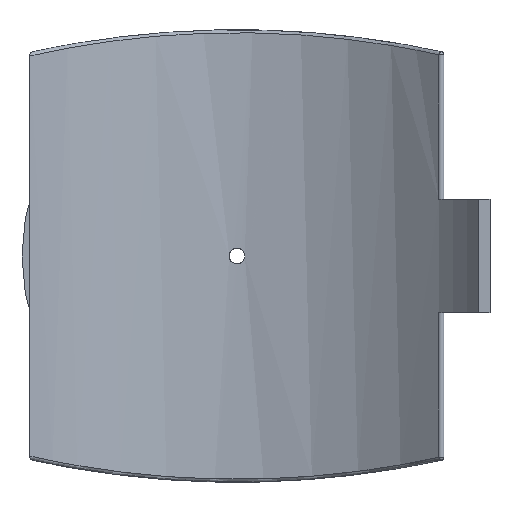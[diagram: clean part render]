
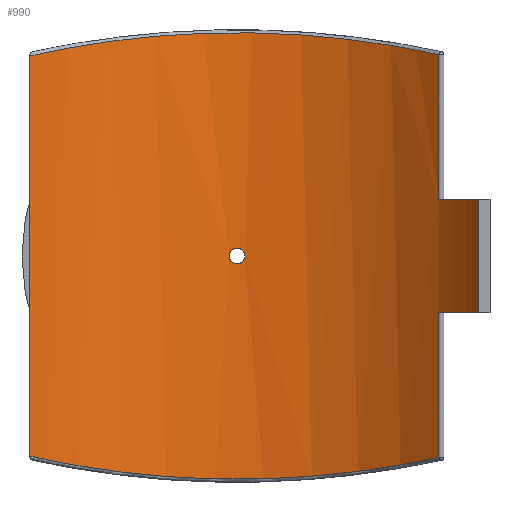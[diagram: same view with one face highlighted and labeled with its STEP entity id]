
A CAD part, front view. The second image highlights one B-rep face of the part: STEP entity #990.
In plain terms, the highlighted cylindrical face has radius 200 mm (diameter 400 mm), a partial arc.
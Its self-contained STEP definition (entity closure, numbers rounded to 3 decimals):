
#55=FACE_BOUND('',#331,.T.);
#101=B_SPLINE_CURVE_WITH_KNOTS('',3,(#2078,#2079,#2080,#2081,#2082,#2083,
#2084,#2085,#2086,#2087),.UNSPECIFIED.,.F.,.F.,(4,1,1,1,1,1,1,4),(-34.596,
-30.27,-25.944,-21.619,-17.293,
-12.967,-8.641,-4.316),.UNSPECIFIED.);
#102=B_SPLINE_CURVE_WITH_KNOTS('',3,(#2096,#2097,#2098,#2099,#2100,#2101,
#2102,#2103,#2104,#2105),.UNSPECIFIED.,.F.,.F.,(4,1,1,1,1,1,1,4),(-32.607,
-28.281,-23.956,-19.63,-15.304,
-10.978,-6.653,-2.327),.UNSPECIFIED.);
#103=B_SPLINE_CURVE_WITH_KNOTS('',3,(#2108,#2109,#2110,#2111,#2112,#2113,
#2114,#2115,#2116,#2117),.UNSPECIFIED.,.F.,.F.,(4,2,2,2,4),(0.,0.196,
0.392,0.588,0.784),.UNSPECIFIED.);
#104=B_SPLINE_CURVE_WITH_KNOTS('',3,(#2118,#2119,#2120,#2121,#2122,#2123,
#2124,#2125,#2126,#2127,#2128,#2129,#2130,#2131,#2132,#2133,#2134,#2135,
#2136,#2137,#2138,#2139,#2140,#2141,#2142,#2143),.UNSPECIFIED.,.F.,.F.,
(4,2,2,2,2,2,2,2,2,2,2,2,4),(0.784,0.979,1.175,
1.371,1.567,1.763,1.959,2.155,
2.351,2.547,2.742,2.938,3.134),
 .UNSPECIFIED.);
#125=LINE('',#1483,#172);
#136=LINE('',#1767,#183);
#143=LINE('',#2092,#190);
#144=LINE('',#2095,#191);
#172=VECTOR('',#1188,10.);
#183=VECTOR('',#1227,10.);
#190=VECTOR('',#1264,10.);
#191=VECTOR('',#1267,10.);
#228=CYLINDRICAL_SURFACE('',#1083,200.);
#268=FACE_OUTER_BOUND('',#330,.T.);
#330=EDGE_LOOP('',(#775,#776,#777,#778,#779,#780,#781,#782));
#331=EDGE_LOOP('',(#783,#784));
#413=CIRCLE('',#1084,200.);
#414=CIRCLE('',#1085,200.);
#466=VERTEX_POINT('',#1474);
#469=VERTEX_POINT('',#1481);
#489=VERTEX_POINT('',#1760);
#492=VERTEX_POINT('',#1765);
#505=VERTEX_POINT('',#2061);
#506=VERTEX_POINT('',#2089);
#507=VERTEX_POINT('',#2091);
#508=VERTEX_POINT('',#2094);
#509=VERTEX_POINT('',#2106);
#510=VERTEX_POINT('',#2107);
#561=EDGE_CURVE('',#469,#466,#125,.T.);
#591=EDGE_CURVE('',#492,#489,#136,.T.);
#614=EDGE_CURVE('',#505,#492,#101,.T.);
#615=EDGE_CURVE('',#506,#469,#413,.T.);
#616=EDGE_CURVE('',#506,#507,#143,.T.);
#617=EDGE_CURVE('',#489,#507,#414,.T.);
#618=EDGE_CURVE('',#508,#505,#144,.T.);
#619=EDGE_CURVE('',#466,#508,#102,.T.);
#620=EDGE_CURVE('',#509,#510,#103,.T.);
#621=EDGE_CURVE('',#510,#509,#104,.T.);
#775=ORIENTED_EDGE('',*,*,#615,.F.);
#776=ORIENTED_EDGE('',*,*,#616,.T.);
#777=ORIENTED_EDGE('',*,*,#617,.F.);
#778=ORIENTED_EDGE('',*,*,#591,.F.);
#779=ORIENTED_EDGE('',*,*,#614,.F.);
#780=ORIENTED_EDGE('',*,*,#618,.F.);
#781=ORIENTED_EDGE('',*,*,#619,.F.);
#782=ORIENTED_EDGE('',*,*,#561,.F.);
#783=ORIENTED_EDGE('',*,*,#620,.T.);
#784=ORIENTED_EDGE('',*,*,#621,.T.);
#990=ADVANCED_FACE('',(#268,#55),#228,.F.);
#1083=AXIS2_PLACEMENT_3D('',#2088,#1260,#1261);
#1084=AXIS2_PLACEMENT_3D('',#2090,#1262,#1263);
#1085=AXIS2_PLACEMENT_3D('',#2093,#1265,#1266);
#1188=DIRECTION('',(0.,0.,-1.));
#1227=DIRECTION('',(0.,0.,-1.));
#1260=DIRECTION('center_axis',(0.,0.,1.));
#1261=DIRECTION('ref_axis',(-1.,0.,0.));
#1262=DIRECTION('center_axis',(0.,0.,1.));
#1263=DIRECTION('ref_axis',(-0.802,-0.597,0.));
#1264=DIRECTION('',(0.,0.,1.));
#1265=DIRECTION('center_axis',(0.,0.,-1.));
#1266=DIRECTION('ref_axis',(-0.802,-0.597,0.));
#1267=DIRECTION('',(0.,0.,1.));
#1474=CARTESIAN_POINT('',(133.911,148.553,-133.392));
#1481=CARTESIAN_POINT('',(133.911,148.553,-37.5));
#1483=CARTESIAN_POINT('',(133.911,148.553,0.));
#1760=CARTESIAN_POINT('',(133.911,148.553,37.5));
#1765=CARTESIAN_POINT('',(133.911,148.553,133.392));
#1767=CARTESIAN_POINT('',(133.911,148.553,0.));
#2061=CARTESIAN_POINT('',(-137.25,145.473,132.645));
#2078=CARTESIAN_POINT('Ctrl Pts',(-137.25,145.473,132.645));
#2079=CARTESIAN_POINT('Ctrl Pts',(-127.001,155.143,134.967));
#2080=CARTESIAN_POINT('Ctrl Pts',(-104.444,172.321,139.527));
#2081=CARTESIAN_POINT('Ctrl Pts',(-65.756,190.491,144.958));
#2082=CARTESIAN_POINT('Ctrl Pts',(-23.856,200.119,148.036));
#2083=CARTESIAN_POINT('Ctrl Pts',(19.244,200.615,148.198));
#2084=CARTESIAN_POINT('Ctrl Pts',(61.375,191.95,145.416));
#2085=CARTESIAN_POINT('Ctrl Pts',(100.492,174.657,140.197));
#2086=CARTESIAN_POINT('Ctrl Pts',(123.444,157.988,135.703));
#2087=CARTESIAN_POINT('Ctrl Pts',(133.911,148.553,133.392));
#2088=CARTESIAN_POINT('Origin',(0.,0.,0.));
#2089=CARTESIAN_POINT('',(160.388,119.48,-37.5));
#2090=CARTESIAN_POINT('Origin',(0.,0.,
-37.5));
#2091=CARTESIAN_POINT('',(160.388,119.48,37.5));
#2092=CARTESIAN_POINT('',(160.388,119.48,0.));
#2093=CARTESIAN_POINT('Origin',(0.,0.,
37.5));
#2094=CARTESIAN_POINT('',(-137.25,145.473,-132.645));
#2095=CARTESIAN_POINT('',(-137.25,145.473,0.));
#2096=CARTESIAN_POINT('Ctrl Pts',(133.911,148.553,-133.392));
#2097=CARTESIAN_POINT('Ctrl Pts',(123.444,157.988,-135.703));
#2098=CARTESIAN_POINT('Ctrl Pts',(100.493,174.658,-140.197));
#2099=CARTESIAN_POINT('Ctrl Pts',(61.375,191.949,-145.416));
#2100=CARTESIAN_POINT('Ctrl Pts',(19.244,200.616,-148.199));
#2101=CARTESIAN_POINT('Ctrl Pts',(-23.856,200.118,-148.035));
#2102=CARTESIAN_POINT('Ctrl Pts',(-65.756,190.492,-144.959));
#2103=CARTESIAN_POINT('Ctrl Pts',(-104.444,172.321,-139.526));
#2104=CARTESIAN_POINT('Ctrl Pts',(-127.001,155.143,-134.967));
#2105=CARTESIAN_POINT('Ctrl Pts',(-137.25,145.473,-132.645));
#2106=CARTESIAN_POINT('',(5.2,199.932,0.));
#2107=CARTESIAN_POINT('',(0.,200.,-5.2));
#2108=CARTESIAN_POINT('Ctrl Pts',(5.2,199.932,0.));
#2109=CARTESIAN_POINT('Ctrl Pts',(5.2,199.932,-0.653));
#2110=CARTESIAN_POINT('Ctrl Pts',(5.07,199.936,-1.349));
#2111=CARTESIAN_POINT('Ctrl Pts',(4.539,199.949,-2.631));
#2112=CARTESIAN_POINT('Ctrl Pts',(4.139,199.958,-3.215));
#2113=CARTESIAN_POINT('Ctrl Pts',(3.215,199.975,-4.139));
#2114=CARTESIAN_POINT('Ctrl Pts',(2.631,199.984,-4.539));
#2115=CARTESIAN_POINT('Ctrl Pts',(1.349,199.996,-5.07));
#2116=CARTESIAN_POINT('Ctrl Pts',(0.653,200.,-5.2));
#2117=CARTESIAN_POINT('Ctrl Pts',(0.,200.,-5.2));
#2118=CARTESIAN_POINT('Ctrl Pts',(0.,200.,-5.2));
#2119=CARTESIAN_POINT('Ctrl Pts',(-0.653,200.,-5.2));
#2120=CARTESIAN_POINT('Ctrl Pts',(-1.349,199.996,-5.07));
#2121=CARTESIAN_POINT('Ctrl Pts',(-2.631,199.984,-4.539));
#2122=CARTESIAN_POINT('Ctrl Pts',(-3.215,199.975,-4.139));
#2123=CARTESIAN_POINT('Ctrl Pts',(-4.139,199.958,-3.215));
#2124=CARTESIAN_POINT('Ctrl Pts',(-4.539,199.949,-2.631));
#2125=CARTESIAN_POINT('Ctrl Pts',(-5.07,199.936,-1.349));
#2126=CARTESIAN_POINT('Ctrl Pts',(-5.2,199.932,-0.653));
#2127=CARTESIAN_POINT('Ctrl Pts',(-5.2,199.932,0.653));
#2128=CARTESIAN_POINT('Ctrl Pts',(-5.07,199.936,1.349));
#2129=CARTESIAN_POINT('Ctrl Pts',(-4.539,199.949,2.631));
#2130=CARTESIAN_POINT('Ctrl Pts',(-4.139,199.958,3.215));
#2131=CARTESIAN_POINT('Ctrl Pts',(-3.215,199.975,4.139));
#2132=CARTESIAN_POINT('Ctrl Pts',(-2.631,199.984,4.539));
#2133=CARTESIAN_POINT('Ctrl Pts',(-1.349,199.996,5.07));
#2134=CARTESIAN_POINT('Ctrl Pts',(-0.653,200.,5.2));
#2135=CARTESIAN_POINT('Ctrl Pts',(0.653,200.,5.2));
#2136=CARTESIAN_POINT('Ctrl Pts',(1.349,199.996,5.07));
#2137=CARTESIAN_POINT('Ctrl Pts',(2.631,199.984,4.539));
#2138=CARTESIAN_POINT('Ctrl Pts',(3.215,199.975,4.139));
#2139=CARTESIAN_POINT('Ctrl Pts',(4.139,199.958,3.215));
#2140=CARTESIAN_POINT('Ctrl Pts',(4.539,199.949,2.631));
#2141=CARTESIAN_POINT('Ctrl Pts',(5.07,199.936,1.349));
#2142=CARTESIAN_POINT('Ctrl Pts',(5.2,199.932,0.653));
#2143=CARTESIAN_POINT('Ctrl Pts',(5.2,199.932,0.));
